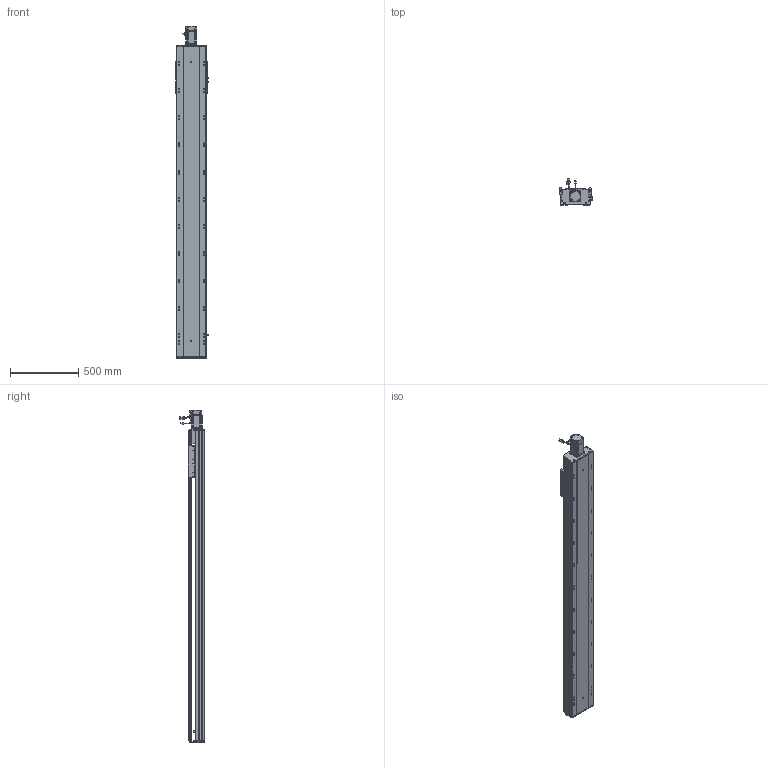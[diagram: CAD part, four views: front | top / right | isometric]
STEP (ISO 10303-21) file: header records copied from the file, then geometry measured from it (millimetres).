
FILE_DESCRIPTION (( 'STEP AP203' ), '1' );
FILE_NAME ('RY220-L2525-800-MK-邧嶺.SLDASM_1850.step', '2022-08-06T08:58:24', ( '' ), ( '' ), 'SwSTEP 2.0', 'SolidWorks 2016', '' );
FILE_SCHEMA (( 'CONFIG_CONTROL_DESIGN' ));
Length unit declared in the file: millimetre
Products named in the file (12): RY220ヶ裔啣; 滅袉蝶18-12; RY220綴裔啣; RY220菁釱MK-800-邧嶺_1850; 怢湛750W_ECMA-CX0807ES; 覜茼ん672; RY220-俋离672覜茼んえ; 滅袉蝶18-15; RY220电机支撑座FK20（PCD90M6）; RY220-800-奻裔啣-MK_1850; RY220半封闭25-32螺母铝滑块; RY220-L2525-800-MK-邧嶺.SLDASM_1850
Assembly tree (15 placements, depth 2):
  RY220-L2525-800-MK-邧嶺.SLDASM_1850
    RY220菁釱MK-800-邧嶺_1850
    RY220电机支撑座FK20（PCD90M6）
    怢湛750W_ECMA-CX0807ES
    滅袉蝶18-12  x2
    RY220ヶ裔啣
    RY220綴裔啣
    覜茼ん672  x3
    RY220半封闭25-32螺母铝滑块
    RY220-800-奻裔啣-MK_1850
    RY220-俋离672覜茼んえ
    滅袉蝶18-15  x2
Bounding box: 238.7 x 187.27 x 2440.3 mm (x, y, z)
Volume: 18046508.6 mm3; surface area: 5289430.6 mm2
Topology: 16 solids, 16 shells, 2416 faces, 6710 edges, 4206 vertices
Faces by surface type: cylinder 1130, plane 915, cone 309, bspline 36, sphere 16, torus 10
Entity records: 79704 total; most frequent: CARTESIAN_POINT 22507, ORIENTED_EDGE 11840, DIRECTION 11339, EDGE_CURVE 5920, AXIS2_PLACEMENT_3D 4041, VERTEX_POINT 3862, LINE 3257, VECTOR 3257
